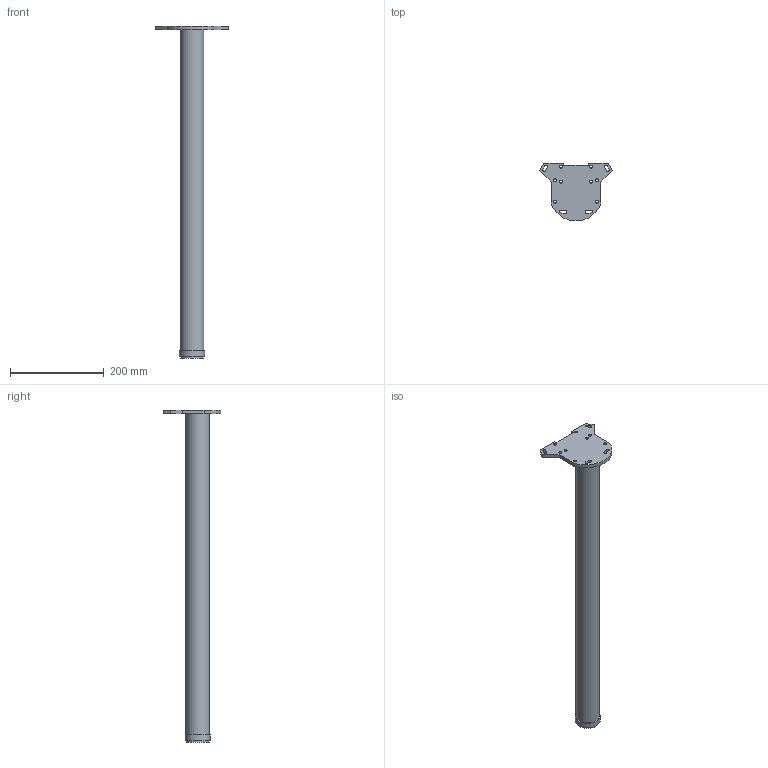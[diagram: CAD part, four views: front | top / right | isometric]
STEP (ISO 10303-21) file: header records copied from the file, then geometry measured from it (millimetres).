
FILE_DESCRIPTION( ( 'STEP AP214' ), '1' );
FILE_NAME( 'D:/Yug/2021/Desk_and_office_organisation/Correction in table leg fixing/QC/70131.stp', '2021-08-12T07:58:58', ( '' ), ( '' ), ' ', 'PARTsolutions', ' ' );
FILE_SCHEMA( ( 'AUTOMOTIVE_DESIGN { 1 0 10303 214 1 1 1 1 }' ) );
Length unit declared in the file: millimetre
Products named in the file (1): _70131
Bounding box: 155.69 x 124 x 710 mm (x, y, z)
Volume: 1481290.8 mm3; surface area: 142329.9 mm2
Topology: 1 solids, 1 shells, 44 faces, 117 edges, 78 vertices
Faces by surface type: plane 24, cylinder 20
Full cylindrical faces by diameter (mm): 6.5 x8, 49 x1, 50 x1, 53.7 x1
Entity records: 1742 total; most frequent: DIRECTION 236, CARTESIAN_POINT 229, ORIENTED_EDGE 212, EDGE_CURVE 106, AXIS2_PLACEMENT_3D 85, EDGE_LOOP 82, VERTEX_POINT 78, LINE 66
